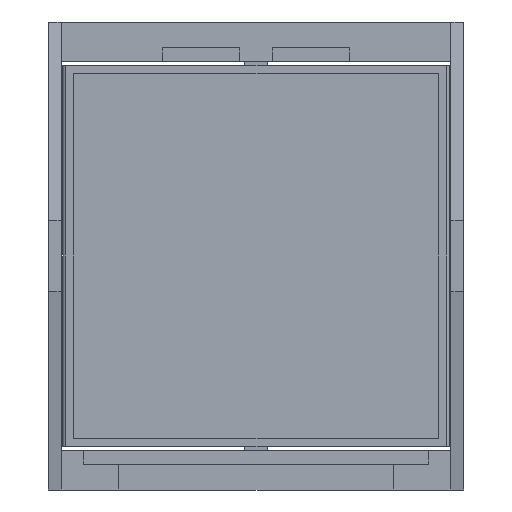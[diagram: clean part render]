
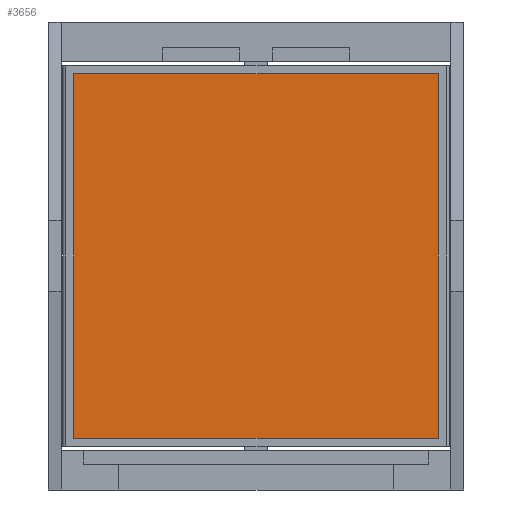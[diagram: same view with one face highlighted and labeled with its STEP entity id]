
A CAD part, front view. The second image highlights one B-rep face of the part: STEP entity #3656.
In plain terms, the highlighted planar face has unit normal (0, -1, 0).
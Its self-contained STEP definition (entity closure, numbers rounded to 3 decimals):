
#33 = CARTESIAN_POINT ( 'NONE',  ( -16.5, -0.127, 16.5 ) ) ;
#100 = FACE_OUTER_BOUND ( 'NONE', #937, .T. ) ;
#328 = LINE ( 'NONE', #3307, #7680 ) ;
#874 = LINE ( 'NONE', #5346, #3183 ) ;
#876 = DIRECTION ( 'NONE',  ( 0., 0., -1. ) ) ;
#937 = EDGE_LOOP ( 'NONE', ( #5600, #9347, #6356, #7528 ) ) ;
#1430 = VERTEX_POINT ( 'NONE', #2804 ) ;
#1890 = EDGE_CURVE ( 'NONE', #3848, #4746, #328, .T. ) ;
#2150 = CARTESIAN_POINT ( 'NONE',  ( 16.5, -0.127, 16.5 ) ) ;
#2486 = CARTESIAN_POINT ( 'NONE',  ( -16.5, -0.127, 16.5 ) ) ;
#2804 = CARTESIAN_POINT ( 'NONE',  ( -16.5, -0.127, -16.5 ) ) ;
#3046 = VECTOR ( 'NONE', #4886, 1000. ) ;
#3085 = PLANE ( 'NONE',  #4264 ) ;
#3183 = VECTOR ( 'NONE', #3831, 1000. ) ;
#3307 = CARTESIAN_POINT ( 'NONE',  ( 16.5, -0.127, -16.5 ) ) ;
#3559 = LINE ( 'NONE', #5822, #4622 ) ;
#3656 = ADVANCED_FACE ( 'NONE', ( #100 ), #3085, .F. ) ;
#3831 = DIRECTION ( 'NONE',  ( 0., 0., 1. ) ) ;
#3848 = VERTEX_POINT ( 'NONE', #2150 ) ;
#4264 = AXIS2_PLACEMENT_3D ( 'NONE', #2486, #9086, #6972 ) ;
#4622 = VECTOR ( 'NONE', #6549, 1000. ) ;
#4746 = VERTEX_POINT ( 'NONE', #6704 ) ;
#4886 = DIRECTION ( 'NONE',  ( 1., 0., 0. ) ) ;
#5346 = CARTESIAN_POINT ( 'NONE',  ( -16.5, -0.127, -16.5 ) ) ;
#5374 = EDGE_CURVE ( 'NONE', #4746, #1430, #3559, .T. ) ;
#5600 = ORIENTED_EDGE ( 'NONE', *, *, #5854, .F. ) ;
#5822 = CARTESIAN_POINT ( 'NONE',  ( -16.5, -0.127, -16.5 ) ) ;
#5854 = EDGE_CURVE ( 'NONE', #1430, #6788, #874, .T. ) ;
#6332 = EDGE_CURVE ( 'NONE', #6788, #3848, #7963, .T. ) ;
#6356 = ORIENTED_EDGE ( 'NONE', *, *, #1890, .F. ) ;
#6357 = CARTESIAN_POINT ( 'NONE',  ( -16.5, -0.127, 16.5 ) ) ;
#6549 = DIRECTION ( 'NONE',  ( -1., 0., 0. ) ) ;
#6704 = CARTESIAN_POINT ( 'NONE',  ( 16.5, -0.127, -16.5 ) ) ;
#6788 = VERTEX_POINT ( 'NONE', #33 ) ;
#6972 = DIRECTION ( 'NONE',  ( 0., 0., 1. ) ) ;
#7528 = ORIENTED_EDGE ( 'NONE', *, *, #6332, .F. ) ;
#7680 = VECTOR ( 'NONE', #876, 1000. ) ;
#7963 = LINE ( 'NONE', #6357, #3046 ) ;
#9086 = DIRECTION ( 'NONE',  ( 0., 1., 0. ) ) ;
#9347 = ORIENTED_EDGE ( 'NONE', *, *, #5374, .F. ) ;
